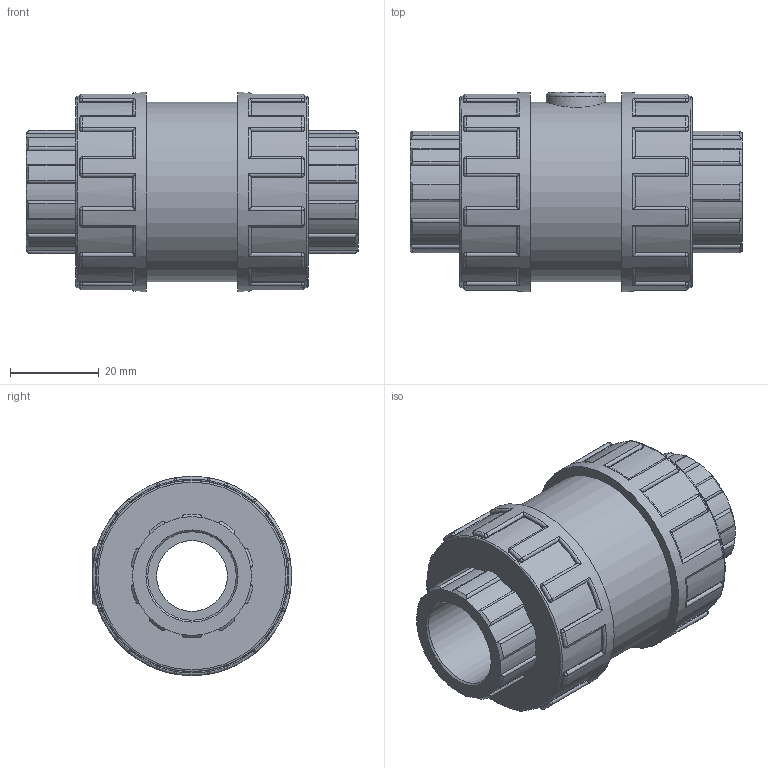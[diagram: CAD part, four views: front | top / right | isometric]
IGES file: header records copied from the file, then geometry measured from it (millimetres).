
Global section: file name: 116300020.ipt; native system: Autodesk Inventor 2015; preprocessor: unknown; author: KIM; date: 20171207.170559; units: millimetre
Bounding box: 75 x 45 x 45 mm (x, y, z)
Volume: 70187.9 mm3; surface area: 16986.8 mm2
Topology: 1 solids, 1 shells, 411 faces, 1033 edges, 630 vertices
Faces by surface type: cylinder 182, plane 105, revolution 56, sphere 48, cone 20
Full cylindrical faces by diameter (mm): 13.5 x1, 40.5 x1, 43.2 x2, 45 x2
